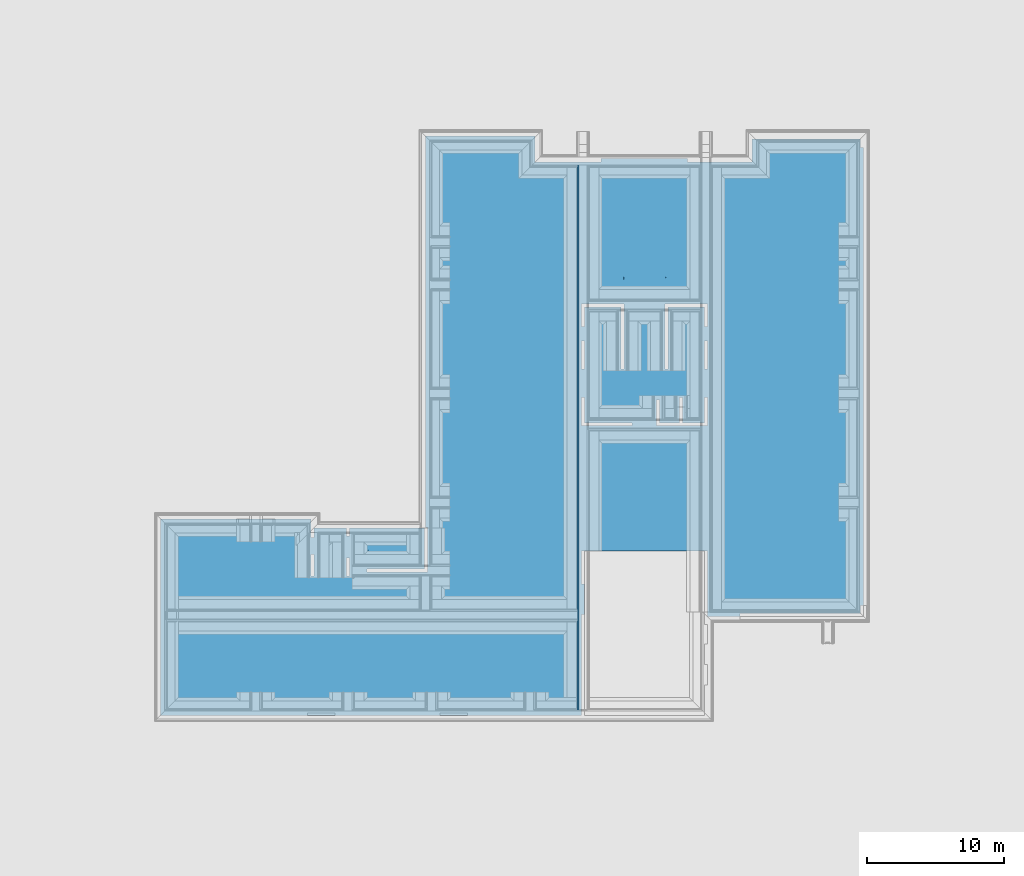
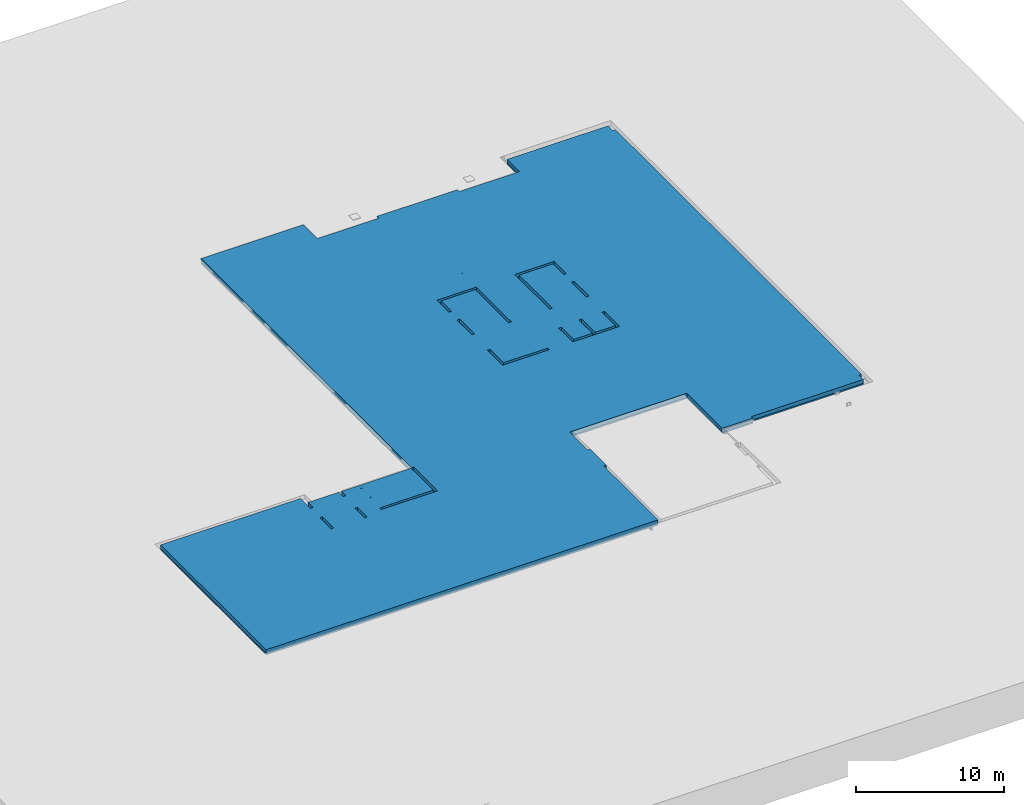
# One storey, part 7 of 15: 3 building element parts, 2 elements without a shape of their own.
"""IFC2X3 building model written with IfcOpenShell, lengths in millimetres."""

from ifc_helpers import new_model, entity, si_unit, converted_unit, derived_unit, money_unit, direction, frame, origin_with_axes, place, context, subcontext, project, spatial, faceted_brep, material, type_object, element, aggregate, save


model = new_model("IFC2X3")

# Units and contexts
model_context = context("Model", 3, precision=0.01, world=origin_with_axes(), true_north=direction((0.0, 1.0)))
plan_context = context("Plan", 3, precision=0.01, world=origin_with_axes(), true_north=direction((0.0, 1.0)))
body_context = subcontext(model_context, "Body", "Model", "MODEL_VIEW")
ifc_project = project(units=[si_unit("LENGTHUNIT", "METRE", prefix="MILLI"), si_unit("AREAUNIT", "SQUARE_METRE"), si_unit("VOLUMEUNIT", "CUBIC_METRE"), converted_unit("PLANEANGLEUNIT", "DEGREE", entity("IfcPlaneAngleMeasure", 0.0174532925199), si_unit("PLANEANGLEUNIT", "RADIAN"), dimensions=[0, 0, 0, 0, 0, 0, 0]), money_unit("EUR"), converted_unit("TIMEUNIT", "Year", entity("IfcTimeMeasure", 31556926.0), si_unit("TIMEUNIT", "SECOND"), dimensions=[0, 0, 1, 0, 0, 0, 0]), si_unit("MASSUNIT", "GRAM", prefix="KILO"), si_unit("THERMODYNAMICTEMPERATUREUNIT", "DEGREE_CELSIUS"), si_unit("LUMINOUSINTENSITYUNIT", "LUMEN"), si_unit("ENERGYUNIT", "JOULE", prefix="MEGA"), derived_unit("THERMALCONDUCTANCEUNIT", [(si_unit("POWERUNIT", "WATT"), 1), (si_unit("LENGTHUNIT", "METRE"), -1), (si_unit("THERMODYNAMICTEMPERATUREUNIT", "KELVIN"), -1)]), derived_unit("SPECIFICHEATCAPACITYUNIT", [(si_unit("ENERGYUNIT", "JOULE"), 1), (si_unit("MASSUNIT", "GRAM", prefix="KILO"), -1), (si_unit("THERMODYNAMICTEMPERATUREUNIT", "KELVIN"), -1)]), derived_unit("MASSDENSITYUNIT", [(si_unit("MASSUNIT", "GRAM", prefix="KILO"), 1), (si_unit("VOLUMEUNIT", "CUBIC_METRE"), -1)])], contexts=[model_context, plan_context])

# Site, building, storey
site_placement = place(None, origin_with_axes())
site = spatial("IfcSite", under=ifc_project, at=site_placement, Name="Site", CompositionType="ELEMENT")
building_placement = place(site_placement, origin_with_axes())
building = spatial("IfcBuilding", under=site, at=building_placement, Name="Naam gebouw", CompositionType="ELEMENT")
storey_placement = place(building_placement, frame((0.0, 0.0, -1050.0), z_axis=(0.0, 0.0, 1.0), x_axis=(1.0, 0.0, 0.0)))
storey = spatial("IfcBuildingStorey", under=building, at=storey_placement, Name="fundering", CompositionType="ELEMENT", Elevation=-1050.0)

# Furnishing, building element parts
furniture_type = type_object("IfcFurnitureType", Name="23 kanaaplaat VBI Rc 3,7 132mm excl. afwerklaag 440", AssemblyPlace="NOTDEFINED")
furnishing_placement = place(storey_placement, frame((4850.0, 4850.00002155, 540.0), z_axis=(0.0, 0.0, 1.0), x_axis=(1.0, 0.0, 0.0)))
furnishing = element("IfcFurnishingElement", 1, at=furnishing_placement, inside=storey, type_object=furniture_type, Name="72_23 VBI 260 Rc 3,7", ObjectType="SHELF")
ifc_material_1 = material(Name="Beton gewapend prefab vloer")
building_element_part_1_placement = place(furnishing_placement, origin_with_axes())
building_element_part_1 = element("IfcBuildingElementPart", 2, at=building_element_part_1_placement, material=ifc_material_1, Name="Beton gewapend prefab vloer", context=body_context, shape_type="Brep", body=[
    faceted_brep([(33678.0, 31905.1730258, 440.0), (33678.0, 31846.984211, 440.0), (33712.0, 31846.984211, 440.0), (33712.0, 31905.1730258, 440.0), (33678.0, 31919.9999781, 387.428646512), (33678.0, 31919.9999781, 429.324594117), (33712.0, 31919.9999781, 387.428646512), (33712.0, 31919.9999781, 429.324594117), (33715.0, 31919.9999781, 440.0), (33715.0, 31919.9999781, 433.021295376), (33675.0, 31919.9999781, 433.021295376), (33675.0, 31919.9999781, 440.0), (33665.0, 31919.9999781, 440.0), (33665.0, 31919.9999781, 371.409607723), (33675.0, 31919.9999781, 371.409607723), (33675.0, 31919.9999781, 383.731945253), (33715.0, 31919.9999781, 383.731945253), (33715.0, 31919.9999781, 309.797920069), (33725.0, 31919.9999781, 309.797920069), (33725.0, 31919.9999781, 440.0), (33715.0, 31910.307333, 440.0), (33675.0, 31910.307333, 440.0), (10945.0, 14299.9999784, 440.0), (0.0, 14299.9999784, 440.0), (0.0, 0.0, 440.0), (30645.0, -2.1554233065e-05, 440.0), (30645.0, 7349.99997845, 440.0), (30855.0, 7349.99997845, 440.0), (30855.0, 9549.99997845, 440.0), (30645.0, 9549.99997845, 440.0), (30645.0, 11974.9999784, 440.0), (39805.0012766, 11974.9999457, 440.0), (39805.0012766, 7200.00054255, 440.0), (42205.0, 7200.00001212, 440.0), (42205.0, 7410.00005355, 440.0), (50964.9999586, 7410.00005355, 440.0), (50964.9999586, 8009.99997845, 440.0), (51174.9999775, 8009.99997845, 440.0), (51174.9999775, 41337.499977, 440.0), (50965.0000265, 41337.499977, 440.0), (50965.0000265, 41976.9999725, 440.0), (43075.0000225, 41976.9999725, 440.0), (43075.0000225, 40302.9999784, 440.0), (38375.0, 40302.9999784, 440.0), (38375.0, 40557.4999784, 440.0), (32075.0, 40557.4999784, 440.0), (32075.0, 40302.9999784, 440.0), (27278.0032564, 40302.9999784, 440.0), (27278.0032564, 42186.9999559, 440.0), (19275.0, 42186.9999559, 440.0), (19275.0, 13672.9999784, 440.0), (19425.0, 13672.9999784, 440.0), (19425.0, 10439.9999784, 440.0), (15015.0, 10439.9999784, 440.0), (15015.0, 10649.9999784, 440.0), (19215.0, 10649.9999784, 440.0), (19215.0, 13644.9999784, 440.0), (13765.0, 13644.9999784, 440.0), (13765.0, 13049.9999784, 440.0), (13555.0, 13049.9999784, 440.0), (13555.0, 13644.9999784, 440.0), (11155.0, 13644.9999784, 440.0), (11155.0, 12939.9999784, 440.0), (10945.0, 12939.9999784, 440.0), (11155.0, 10149.9999784, 440.0), (10945.0, 10149.9999784, 440.0), (10945.0, 11689.9999784, 440.0), (11155.0, 11689.9999784, 440.0), (13555.0, 11449.9999784, 440.0), (13765.0, 11449.9999784, 440.0), (13765.0, 10149.9999784, 440.0), (13555.0, 10149.9999784, 440.0), (30645.0, 27239.9999061, 440.0), (30855.0, 27239.9999061, 440.0), (30855.0, 25224.9999061, 440.0), (30645.0, 25224.9999061, 440.0), (30855.0, 28303.9999061, 440.0), (30645.0, 28303.9999061, 440.0), (30645.0, 29949.9999784, 440.0), (33725.0, 29949.9999784, 440.0), (33725.0, 25224.9999061, 440.0), (33515.0, 25224.9999061, 440.0), (33515.0, 29739.9999784, 440.0), (30855.0, 29739.9999784, 440.0), (34325.0, 21089.9999784, 440.0), (30645.0, 21089.9999784, 440.0), (30645.0, 23124.9999784, 440.0), (30855.0, 23124.9999784, 440.0), (30855.0, 21299.9999784, 440.0), (34325.0, 21299.9999784, 440.0), (36125.0, 21089.9999784, 440.0), (36125.0, 22973.4999784, 440.0), (36335.0, 22973.4999784, 440.0), (36335.0, 21299.9999784, 440.0), (37797.0, 21299.9999784, 440.0), (37797.0, 23124.9999784, 440.0), (38007.0, 23124.9999784, 440.0), (38007.0, 21299.9999784, 440.0), (39595.0, 21299.9999784, 440.0), (39595.0, 23124.9999784, 440.0), (39805.0, 23124.9999784, 440.0), (39805.0, 21089.9999784, 440.0), (36935.0, 25224.9999061, 440.0), (36725.0, 25224.9999061, 440.0), (36725.0, 29950.0000142, 440.0), (39805.0, 29950.0000142, 440.0), (39805.0, 28303.9999061, 440.0), (39595.0, 28303.9999061, 440.0), (39595.0, 29739.9999784, 440.0), (36935.0, 29739.9999784, 440.0), (39805.0, 25224.9999061, 440.0), (39595.0, 25224.9999061, 440.0), (39595.0, 27239.9999061, 440.0), (39805.0, 27239.9999061, 440.0), (15225.8362185, 13249.9999784, 440.0), (15055.0, 13249.9999784, 440.0), (15055.0, 13309.9999784, 440.0), (15140.264432, 13309.9999784, 440.0), (15140.264432, 13299.9999784, 440.0), (15123.1500746, 13299.9999784, 440.0), (15123.1500746, 13259.9999784, 440.0), (15225.8362185, 13259.9999784, 440.0), (15140.264432, 11989.9999784, 440.0), (15055.0, 11989.9999784, 440.0), (15055.0, 12049.9999784, 440.0), (15225.8362185, 12049.9999784, 440.0), (15225.8362185, 12039.9999784, 440.0), (15123.1500746, 12039.9999784, 440.0), (15123.1500746, 11999.9999784, 440.0), (15140.264432, 11999.9999784, 440.0), (36735.0, 31919.9999781, 440.0), (36735.0, 31910.307333, 440.0), (36775.0, 31910.307333, 440.0), (36775.0, 31919.9999781, 440.0), (36785.0, 31919.9999781, 440.0), (36785.0, 31824.7355465, 440.0), (36775.0, 31824.7355465, 440.0), (36775.0, 31841.8499038, 440.0), (36735.0, 31841.8499038, 440.0), (36735.0, 31739.1637599, 440.0), (36725.0, 31739.1637599, 440.0), (36725.0, 31919.9999781, 440.0), (33725.0, 31739.1637599, 440.0), (33715.0, 31739.1637599, 440.0), (33715.0, 31841.8499038, 440.0), (33675.0, 31841.8499038, 440.0), (33675.0, 31824.7355465, 440.0), (33665.0, 31824.7355465, 440.0), (10945.0, 14299.9999784, 120.0), (0.0, 14299.9999784, 120.0), (0.0, 0.0, 120.0), (30645.0, -2.1554233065e-05, 120.0), (30645.0, 7349.99997845, 120.0), (30855.0, 7349.99997845, 120.0), (30855.0, 9549.99997845, 120.0), (30645.0, 9549.99997845, 120.0), (30645.0, 11974.9999784, 120.0), (39805.0012766, 11974.9999457, 120.0), (39805.0012766, 7200.00054255, 120.0), (42205.0, 7200.00001212, 120.0), (42205.0, 7410.00005355, 120.0), (50964.9999586, 7410.00005355, 120.0), (50964.9999586, 8009.99997845, 120.0), (51174.9999775, 8009.99997845, 120.0), (51174.9999775, 41337.499977, 120.0), (50965.0000265, 41337.499977, 120.0), (50965.0000265, 41976.9999725, 120.0), (43075.0000225, 41976.9999725, 120.0), (43075.0000225, 40302.9999784, 120.0), (38375.0, 40302.9999784, 120.0), (38375.0, 40557.4999784, 120.0), (32075.0, 40557.4999784, 120.0), (32075.0, 40302.9999784, 120.0), (27278.0032564, 40302.9999784, 120.0), (27278.0032564, 42186.9999559, 120.0), (19275.0, 42186.9999559, 120.0), (19275.0, 13672.9999784, 120.0), (19425.0, 13672.9999784, 120.0), (19425.0, 10439.9999784, 120.0), (15015.0, 10439.9999784, 120.0), (15015.0, 10649.9999784, 120.0), (19215.0, 10649.9999784, 120.0), (19215.0, 13644.9999784, 120.0), (13765.0, 13644.9999784, 120.0), (13765.0, 13049.9999784, 120.0), (13555.0, 13049.9999784, 120.0), (13555.0, 13644.9999784, 120.0), (11155.0, 13644.9999784, 120.0), (11155.0, 12939.9999784, 120.0), (10945.0, 12939.9999784, 120.0), (11155.0, 10149.9999784, 120.0), (10945.0, 10149.9999784, 120.0), (10945.0, 11689.9999784, 120.0), (11155.0, 11689.9999784, 120.0), (13555.0, 11449.9999784, 120.0), (13765.0, 11449.9999784, 120.0), (13765.0, 10149.9999784, 120.0), (13555.0, 10149.9999784, 120.0), (30645.0, 27239.9999061, 120.0), (30855.0, 27239.9999061, 120.0), (30855.0, 25224.9999061, 120.0), (30645.0, 25224.9999061, 120.0), (30855.0, 28303.9999061, 120.0), (30645.0, 28303.9999061, 120.0), (30645.0, 29949.9999784, 120.0), (33725.0, 29949.9999784, 120.0), (33725.0, 25224.9999061, 120.0), (33515.0, 25224.9999061, 120.0), (33515.0, 29739.9999784, 120.0), (30855.0, 29739.9999784, 120.0), (34325.0, 21089.9999784, 120.0), (30645.0, 21089.9999784, 120.0), (30645.0, 23124.9999784, 120.0), (30855.0, 23124.9999784, 120.0), (30855.0, 21299.9999784, 120.0), (34325.0, 21299.9999784, 120.0), (36125.0, 21089.9999784, 120.0), (36125.0, 22973.4999784, 120.0), (36335.0, 22973.4999784, 120.0), (36335.0, 21299.9999784, 120.0), (37797.0, 21299.9999784, 120.0), (37797.0, 23124.9999784, 120.0), (38007.0, 23124.9999784, 120.0), (38007.0, 21299.9999784, 120.0), (39595.0, 21299.9999784, 120.0), (39595.0, 23124.9999784, 120.0), (39805.0, 23124.9999784, 120.0), (39805.0, 21089.9999784, 120.0), (36935.0, 25224.9999061, 120.0), (36725.0, 25224.9999061, 120.0), (36725.0, 29950.0000142, 120.0), (39805.0, 29950.0000142, 120.0), (39805.0, 28303.9999061, 120.0), (39595.0, 28303.9999061, 120.0), (39595.0, 29739.9999784, 120.0), (36935.0, 29739.9999784, 120.0), (39805.0, 25224.9999061, 120.0), (39595.0, 25224.9999061, 120.0), (39595.0, 27239.9999061, 120.0), (39805.0, 27239.9999061, 120.0), (15055.0, 13249.9999784, 316.997920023), (15055.0, 13259.9999784, 316.997920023), (15055.0, 13259.9999784, 390.931945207), (15055.0, 13299.9999784, 390.931945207), (15055.0, 13299.9999784, 378.609607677), (15055.0, 13309.9999784, 378.609607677), (15055.0, 13296.9999784, 436.524594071), (15055.0, 13296.9999784, 394.628646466), (15055.0, 13262.9999784, 394.628646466), (15055.0, 13262.9999784, 436.524594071), (15055.0, 11989.9999784, 378.609607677), (15055.0, 11999.9999784, 378.609607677), (15055.0, 11999.9999784, 390.931945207), (15055.0, 12039.9999784, 390.931945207), (15055.0, 12039.9999784, 316.997920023), (15055.0, 12049.9999784, 316.997920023), (15055.0, 12036.9999784, 436.524594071), (15055.0, 12036.9999784, 394.628646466), (15055.0, 12002.9999784, 394.628646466), (15055.0, 12002.9999784, 436.524594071), (36735.0, 31919.9999781, 433.021295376), (36775.0, 31919.9999781, 433.021295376), (36725.0, 31919.9999781, 309.797920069), (36735.0, 31919.9999781, 309.797920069), (36735.0, 31919.9999781, 383.731945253), (36775.0, 31919.9999781, 383.731945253), (36775.0, 31919.9999781, 371.409607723), (36785.0, 31919.9999781, 371.409607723), (36772.0, 31919.9999781, 429.324594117), (36772.0, 31919.9999781, 387.428646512), (36738.0, 31919.9999781, 387.428646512), (36738.0, 31919.9999781, 429.324594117), (15059.8269526, 13296.9999784, 440.0), (15118.0157674, 13296.9999784, 440.0), (15118.0157674, 13262.9999784, 440.0), (15059.8269526, 13262.9999784, 440.0), (15059.8269526, 12036.9999784, 440.0), (15118.0157674, 12036.9999784, 440.0), (15118.0157674, 12002.9999784, 440.0), (15059.8269526, 12002.9999784, 440.0), (36772.0, 31905.1730258, 440.0), (36772.0, 31846.984211, 440.0), (36738.0, 31846.984211, 440.0), (36738.0, 31905.1730258, 440.0)], [[[0, 1, 2, 3]], [[4, 1, 0, 5]], [[6, 2, 1, 4]], [[7, 3, 2, 6]], [[5, 0, 3, 7]], [[8, 9, 10, 11, 12, 13, 14, 15, 16, 17, 18, 19], [7, 6, 4, 5]], [[8, 20, 9]], [[10, 9, 20, 21]], [[11, 10, 21]], [[22, 23, 24, 25, 26, 27, 28, 29, 30, 31, 32, 33, 34, 35, 36, 37, 38, 39, 40, 41, 42, 43, 44, 45, 46, 47, 48, 49, 50, 51, 52, 53, 54, 55, 56, 57, 58, 59, 60, 61, 62, 63], [64, 65, 66, 67], [68, 69, 70, 71], [72, 73, 74, 75], [76, 77, 78, 79, 80, 81, 82, 83], [84, 85, 86, 87, 88, 89], [90, 91, 92, 93, 94, 95, 96, 97, 98, 99, 100, 101], [102, 103, 104, 105, 106, 107, 108, 109], [110, 111, 112, 113], [114, 115, 116, 117, 118, 119, 120, 121], [122, 123, 124, 125, 126, 127, 128, 129], [130, 131, 132, 133, 134, 135, 136, 137, 138, 139, 140, 141], [11, 21, 20, 8, 19, 142, 143, 144, 145, 146, 147, 12]], [[13, 12, 147]], [[13, 147, 146, 14]], [[146, 145, 15, 14]], [[145, 144, 16, 15]], [[17, 16, 144, 143]], [[17, 143, 142, 18]], [[18, 142, 19]], [[22, 148, 149, 23]], [[23, 149, 150, 24]], [[24, 150, 151, 25]], [[25, 151, 152, 26]], [[26, 152, 153, 27]], [[27, 153, 154, 28]], [[28, 154, 155, 29]], [[29, 155, 156, 30]], [[30, 156, 157, 31]], [[31, 157, 158, 32]], [[32, 158, 159, 33]], [[33, 159, 160, 34]], [[34, 160, 161, 35]], [[35, 161, 162, 36]], [[36, 162, 163, 37]], [[37, 163, 164, 38]], [[38, 164, 165, 39]], [[39, 165, 166, 40]], [[40, 166, 167, 41]], [[41, 167, 168, 42]], [[42, 168, 169, 43]], [[43, 169, 170, 44]], [[44, 170, 171, 45]], [[45, 171, 172, 46]], [[46, 172, 173, 47]], [[47, 173, 174, 48]], [[48, 174, 175, 49]], [[49, 175, 176, 50]], [[50, 176, 177, 51]], [[51, 177, 178, 52]], [[52, 178, 179, 53]], [[53, 179, 180, 54]], [[54, 180, 181, 55]], [[55, 181, 182, 56]], [[56, 182, 183, 57]], [[57, 183, 184, 58]], [[58, 184, 185, 59]], [[59, 185, 186, 60]], [[60, 186, 187, 61]], [[61, 187, 188, 62]], [[62, 188, 189, 63]], [[63, 189, 148, 22]], [[64, 190, 191, 65]], [[65, 191, 192, 66]], [[66, 192, 193, 67]], [[67, 193, 190, 64]], [[68, 194, 195, 69]], [[69, 195, 196, 70]], [[70, 196, 197, 71]], [[71, 197, 194, 68]], [[72, 198, 199, 73]], [[73, 199, 200, 74]], [[74, 200, 201, 75]], [[75, 201, 198, 72]], [[76, 202, 203, 77]], [[77, 203, 204, 78]], [[78, 204, 205, 79]], [[79, 205, 206, 80]], [[80, 206, 207, 81]], [[81, 207, 208, 82]], [[82, 208, 209, 83]], [[83, 209, 202, 76]], [[84, 210, 211, 85]], [[85, 211, 212, 86]], [[86, 212, 213, 87]], [[87, 213, 214, 88]], [[88, 214, 215, 89]], [[89, 215, 210, 84]], [[90, 216, 217, 91]], [[91, 217, 218, 92]], [[92, 218, 219, 93]], [[93, 219, 220, 94]], [[94, 220, 221, 95]], [[95, 221, 222, 96]], [[96, 222, 223, 97]], [[97, 223, 224, 98]], [[98, 224, 225, 99]], [[99, 225, 226, 100]], [[100, 226, 227, 101]], [[101, 227, 216, 90]], [[102, 228, 229, 103]], [[103, 229, 230, 104]], [[104, 230, 231, 105]], [[105, 231, 232, 106]], [[106, 232, 233, 107]], [[107, 233, 234, 108]], [[108, 234, 235, 109]], [[109, 235, 228, 102]], [[110, 236, 237, 111]], [[111, 237, 238, 112]], [[112, 238, 239, 113]], [[113, 239, 236, 110]], [[240, 115, 114]], [[116, 115, 240, 241, 242, 243, 244, 245], [246, 247, 248, 249]], [[245, 117, 116]], [[244, 118, 117, 245]], [[244, 243, 119, 118]], [[242, 120, 119, 243]], [[121, 120, 242, 241]], [[240, 114, 121, 241]], [[250, 123, 122]], [[124, 123, 250, 251, 252, 253, 254, 255], [256, 257, 258, 259]], [[255, 125, 124]], [[254, 126, 125, 255]], [[254, 253, 127, 126]], [[252, 128, 127, 253]], [[129, 128, 252, 251]], [[250, 122, 129, 251]], [[130, 260, 131]], [[260, 261, 132, 131]], [[133, 132, 261]], [[133, 261, 260, 130, 141, 262, 263, 264, 265, 266, 267, 134], [268, 269, 270, 271]], [[267, 135, 134]], [[266, 136, 135, 267]], [[266, 265, 137, 136]], [[138, 137, 265, 264]], [[139, 138, 264, 263]], [[262, 140, 139, 263]], [[262, 141, 140]], [[152, 151, 150, 149, 148, 189, 188, 187, 186, 185, 184, 183, 182, 181, 180, 179, 178, 177, 176, 175, 174, 173, 172, 171, 170, 169, 168, 167, 166, 165, 164, 163, 162, 161, 160, 159, 158, 157, 156, 155, 154, 153], [190, 193, 192, 191], [194, 197, 196, 195], [198, 201, 200, 199], [205, 204, 203, 202, 209, 208, 207, 206], [213, 212, 211, 210, 215, 214], [219, 218, 217, 216, 227, 226, 225, 224, 223, 222, 221, 220], [231, 230, 229, 228, 235, 234, 233, 232], [236, 239, 238, 237]], [[246, 272, 273, 247]], [[247, 273, 274, 248]], [[248, 274, 275, 249]], [[249, 275, 272, 246]], [[256, 276, 277, 257]], [[257, 277, 278, 258]], [[258, 278, 279, 259]], [[259, 279, 276, 256]], [[268, 280, 281, 269]], [[269, 281, 282, 270]], [[270, 282, 283, 271]], [[271, 283, 280, 268]], [[272, 275, 274, 273]], [[276, 279, 278, 277]], [[283, 282, 281, 280]]]),
])
ifc_material_2 = material(Name="Isolatie - EPS vloer")
building_element_part_2_placement = place(furnishing_placement, origin_with_axes())
building_element_part_2 = element("IfcBuildingElementPart", 3, at=building_element_part_2_placement, material=ifc_material_2, Name="Isolatie - EPS vloer", context=body_context, shape_type="Brep", body=[
    faceted_brep([(0.0, 0.0, 0.0), (30645.0, -2.1554233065e-05, 0.0), (30645.0, -2.1554233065e-05, 120.0), (0.0, 0.0, 120.0), (0.0, 14299.9999784, 0.0), (10945.0, 14299.9999784, 0.0), (10945.0, 12939.9999784, 0.0), (11155.0, 12939.9999784, 0.0), (11155.0, 13644.9999784, 0.0), (13555.0, 13644.9999784, 0.0), (13555.0, 13049.9999784, 0.0), (13765.0, 13049.9999784, 0.0), (13765.0, 13644.9999784, 0.0), (19215.0, 13644.9999784, 0.0), (19215.0, 10649.9999784, 0.0), (15015.0, 10649.9999784, 0.0), (15015.0, 10439.9999784, 0.0), (19215.0, 10439.9999784, 0.0), (19425.0, 10439.9999784, 0.0), (19425.0, 13672.9999784, 0.0), (19275.0, 13672.9999784, 0.0), (19275.0, 42186.9999559, 0.0), (27278.0032564, 42186.9999559, 0.0), (27278.0032564, 40302.9999784, 0.0), (32075.0, 40302.9999784, 0.0), (32075.0, 40557.4999784, 0.0), (38375.0, 40557.4999784, 0.0), (38375.0, 40302.9999784, 0.0), (43075.0000225, 40302.9999784, 0.0), (43075.0000225, 41976.9999725, 0.0), (50965.0000265, 41976.9999725, 0.0), (50965.0000265, 41337.499977, 0.0), (51174.9999775, 41337.499977, 0.0), (51174.9999775, 8009.99997845, 0.0), (50964.9999586, 8009.99997845, 0.0), (50964.9999586, 7410.00005355, 0.0), (42205.0, 7410.00005355, 0.0), (42205.0, 7200.00001212, 0.0), (39805.0012766, 7200.00054255, 0.0), (39805.0012766, 11974.9999457, 0.0), (30645.0, 11974.9999784, 0.0), (30645.0, 9549.99997845, 0.0), (30855.0, 9549.99997845, 0.0), (30855.0, 7349.99997845, 0.0), (30645.0, 7349.99997845, 0.0), (10945.0, 11689.9999784, 0.0), (10945.0, 10149.9999784, 0.0), (11155.0, 10149.9999784, 0.0), (11155.0, 11689.9999784, 0.0), (13765.0, 10149.9999784, 0.0), (13765.0, 11449.9999784, 0.0), (13555.0, 11449.9999784, 0.0), (13555.0, 10149.9999784, 0.0), (30855.0, 25224.9999061, 0.0), (30855.0, 27239.9999061, 0.0), (30645.0, 27239.9999061, 0.0), (30645.0, 25224.9999061, 0.0), (30645.0, 29739.9999784, 0.0), (30645.0, 28303.9999061, 0.0), (30855.0, 28303.9999061, 0.0), (30855.0, 29739.9999784, 0.0), (33515.0, 29739.9999784, 0.0), (33515.0, 25224.9999061, 0.0), (33725.0, 25224.9999061, 0.0), (33725.0, 29949.9999784, 0.0), (33515.0, 29949.9999784, 0.0), (30855.0, 29949.9999784, 0.0), (30645.0, 29949.9999784, 0.0), (30645.0, 21089.9999784, 0.0), (30855.0, 21089.9999784, 0.0), (34325.0, 21089.9999784, 0.0), (34325.0, 21299.9999784, 0.0), (30855.0, 21299.9999784, 0.0), (30855.0, 23124.9999784, 0.0), (30645.0, 23124.9999784, 0.0), (36125.0, 22973.4999784, 0.0), (36125.0, 21299.9999784, 0.0), (36125.0, 21089.9999784, 0.0), (39595.0, 21089.9999784, 0.0), (39805.0, 21089.9999784, 0.0), (39805.0, 23124.9999784, 0.0), (39595.0, 23124.9999784, 0.0), (39595.0, 21299.9999784, 0.0), (38007.0, 21299.9999784, 0.0), (38007.0, 23124.9999784, 0.0), (37797.0, 23124.9999784, 0.0), (37797.0, 21299.9999784, 0.0), (36335.0, 21299.9999784, 0.0), (36335.0, 22973.4999784, 0.0), (36725.0, 29739.9999784, 0.0), (36725.0, 25224.9999061, 0.0), (36935.0, 25224.9999061, 0.0), (36935.0, 29739.9999784, 0.0), (39595.0, 29739.9999784, 0.0), (39595.0, 28303.9999061, 0.0), (39805.0, 28303.9999061, 0.0), (39805.0, 29739.9999784, 0.0), (39805.0, 29950.0000142, 0.0), (36725.0, 29950.0000142, 0.0), (39595.0, 27239.9999061, 0.0), (39595.0, 25224.9999061, 0.0), (39805.0, 25224.9999061, 0.0), (39805.0, 27239.9999061, 0.0), (30645.0, 7349.99997845, 120.0), (30855.0, 7349.99997845, 120.0), (30855.0, 9549.99997845, 120.0), (30645.0, 9549.99997845, 120.0), (30645.0, 11974.9999784, 120.0), (39805.0012766, 11974.9999457, 120.0), (39805.0012766, 7200.00054255, 120.0), (42205.0, 7200.00001212, 120.0), (42205.0, 7410.00005355, 120.0), (50964.9999586, 7410.00005355, 120.0), (50964.9999586, 8009.99997845, 120.0), (51174.9999775, 8009.99997845, 120.0), (51174.9999775, 41337.499977, 120.0), (50965.0000265, 41337.499977, 120.0), (50965.0000265, 41976.9999725, 120.0), (43075.0000225, 41976.9999725, 120.0), (43075.0000225, 40302.9999784, 120.0), (38375.0, 40302.9999784, 120.0), (38375.0, 40557.4999784, 120.0), (32075.0, 40557.4999784, 120.0), (32075.0, 40302.9999784, 120.0), (27278.0032564, 40302.9999784, 120.0), (27278.0032564, 42186.9999559, 120.0), (19275.0, 42186.9999559, 120.0), (19275.0, 13672.9999784, 120.0), (19425.0, 13672.9999784, 120.0), (19425.0, 10439.9999784, 120.0), (19215.0, 10439.9999784, 120.0), (15015.0, 10439.9999784, 120.0), (15015.0, 10649.9999784, 120.0), (19215.0, 10649.9999784, 120.0), (19215.0, 13644.9999784, 120.0), (13765.0, 13644.9999784, 120.0), (13765.0, 13049.9999784, 120.0), (13555.0, 13049.9999784, 120.0), (13555.0, 13644.9999784, 120.0), (11155.0, 13644.9999784, 120.0), (11155.0, 12939.9999784, 120.0), (10945.0, 12939.9999784, 120.0), (10945.0, 14299.9999784, 120.0), (0.0, 14299.9999784, 120.0), (10945.0, 11689.9999784, 120.0), (11155.0, 11689.9999784, 120.0), (11155.0, 10149.9999784, 120.0), (10945.0, 10149.9999784, 120.0), (13765.0, 10149.9999784, 120.0), (13555.0, 10149.9999784, 120.0), (13555.0, 11449.9999784, 120.0), (13765.0, 11449.9999784, 120.0), (30855.0, 25224.9999061, 120.0), (30645.0, 25224.9999061, 120.0), (30645.0, 27239.9999061, 120.0), (30855.0, 27239.9999061, 120.0), (30645.0, 29739.9999784, 120.0), (30645.0, 29949.9999784, 120.0), (30855.0, 29949.9999784, 120.0), (33515.0, 29949.9999784, 120.0), (33725.0, 29949.9999784, 120.0), (33725.0, 25224.9999061, 120.0), (33515.0, 25224.9999061, 120.0), (33515.0, 29739.9999784, 120.0), (30855.0, 29739.9999784, 120.0), (30855.0, 28303.9999061, 120.0), (30645.0, 28303.9999061, 120.0), (30645.0, 21089.9999784, 120.0), (30645.0, 23124.9999784, 120.0), (30855.0, 23124.9999784, 120.0), (30855.0, 21299.9999784, 120.0), (34325.0, 21299.9999784, 120.0), (34325.0, 21089.9999784, 120.0), (30855.0, 21089.9999784, 120.0), (36125.0, 22973.4999784, 120.0), (36335.0, 22973.4999784, 120.0), (36335.0, 21299.9999784, 120.0), (37797.0, 21299.9999784, 120.0), (37797.0, 23124.9999784, 120.0), (38007.0, 23124.9999784, 120.0), (38007.0, 21299.9999784, 120.0), (39595.0, 21299.9999784, 120.0), (39595.0, 23124.9999784, 120.0), (39805.0, 23124.9999784, 120.0), (39805.0, 21089.9999784, 120.0), (39595.0, 21089.9999784, 120.0), (36125.0, 21089.9999784, 120.0), (36125.0, 21299.9999784, 120.0), (36725.0, 29739.9999784, 120.0), (36725.0, 29950.0000142, 120.0), (39805.0, 29950.0000142, 120.0), (39805.0, 29739.9999784, 120.0), (39805.0, 28303.9999061, 120.0), (39595.0, 28303.9999061, 120.0), (39595.0, 29739.9999784, 120.0), (36935.0, 29739.9999784, 120.0), (36935.0, 25224.9999061, 120.0), (36725.0, 25224.9999061, 120.0), (39595.0, 27239.9999061, 120.0), (39805.0, 27239.9999061, 120.0), (39805.0, 25224.9999061, 120.0), (39595.0, 25224.9999061, 120.0)], [[[0, 1, 2, 3]], [[0, 4, 5, 6, 7, 8, 9, 10, 11, 12, 13, 14, 15, 16, 17, 18, 19, 20, 21, 22, 23, 24, 25, 26, 27, 28, 29, 30, 31, 32, 33, 34, 35, 36, 37, 38, 39, 40, 41, 42, 43, 44, 1], [45, 46, 47, 48], [49, 50, 51, 52], [53, 54, 55, 56], [57, 58, 59, 60, 61, 62, 63, 64, 65, 66, 67], [68, 69, 70, 71, 72, 73, 74], [75, 76, 77, 78, 79, 80, 81, 82, 83, 84, 85, 86, 87, 88], [89, 90, 91, 92, 93, 94, 95, 96, 97, 98], [99, 100, 101, 102]], [[1, 44, 103, 2]], [[3, 2, 103, 104, 105, 106, 107, 108, 109, 110, 111, 112, 113, 114, 115, 116, 117, 118, 119, 120, 121, 122, 123, 124, 125, 126, 127, 128, 129, 130, 131, 132, 133, 134, 135, 136, 137, 138, 139, 140, 141, 142, 143], [144, 145, 146, 147], [148, 149, 150, 151], [152, 153, 154, 155], [156, 157, 158, 159, 160, 161, 162, 163, 164, 165, 166], [167, 168, 169, 170, 171, 172, 173], [174, 175, 176, 177, 178, 179, 180, 181, 182, 183, 184, 185, 186, 187], [188, 189, 190, 191, 192, 193, 194, 195, 196, 197], [198, 199, 200, 201]], [[4, 0, 3, 143]], [[5, 4, 143, 142]], [[6, 5, 142, 141]], [[7, 6, 141, 140]], [[8, 7, 140, 139]], [[9, 8, 139, 138]], [[10, 9, 138, 137]], [[11, 10, 137, 136]], [[12, 11, 136, 135]], [[13, 12, 135, 134]], [[14, 13, 134, 133]], [[15, 14, 133, 132]], [[16, 15, 132, 131]], [[17, 16, 131, 130]], [[18, 17, 130, 129]], [[19, 18, 129, 128]], [[20, 19, 128, 127]], [[21, 20, 127, 126]], [[22, 21, 126, 125]], [[23, 22, 125, 124]], [[24, 23, 124, 123]], [[25, 24, 123, 122]], [[26, 25, 122, 121]], [[27, 26, 121, 120]], [[28, 27, 120, 119]], [[29, 28, 119, 118]], [[30, 29, 118, 117]], [[31, 30, 117, 116]], [[32, 31, 116, 115]], [[33, 32, 115, 114]], [[34, 33, 114, 113]], [[35, 34, 113, 112]], [[36, 35, 112, 111]], [[37, 36, 111, 110]], [[38, 37, 110, 109]], [[39, 38, 109, 108]], [[40, 39, 108, 107]], [[41, 40, 107, 106]], [[42, 41, 106, 105]], [[43, 42, 105, 104]], [[44, 43, 104, 103]], [[46, 45, 144, 147]], [[47, 46, 147, 146]], [[48, 47, 146, 145]], [[45, 48, 145, 144]], [[50, 49, 148, 151]], [[51, 50, 151, 150]], [[52, 51, 150, 149]], [[49, 52, 149, 148]], [[54, 53, 152, 155]], [[55, 54, 155, 154]], [[56, 55, 154, 153]], [[53, 56, 153, 152]], [[58, 57, 156, 166]], [[59, 58, 166, 165]], [[60, 59, 165, 164]], [[61, 60, 164, 163]], [[62, 61, 163, 162]], [[63, 62, 162, 161]], [[64, 63, 161, 160]], [[65, 64, 160, 159]], [[66, 65, 159, 158]], [[67, 66, 158, 157]], [[57, 67, 157, 156]], [[69, 68, 167, 173]], [[70, 69, 173, 172]], [[71, 70, 172, 171]], [[72, 71, 171, 170]], [[73, 72, 170, 169]], [[74, 73, 169, 168]], [[68, 74, 168, 167]], [[76, 75, 174, 187]], [[77, 76, 187, 186]], [[78, 77, 186, 185]], [[79, 78, 185, 184]], [[80, 79, 184, 183]], [[81, 80, 183, 182]], [[82, 81, 182, 181]], [[83, 82, 181, 180]], [[84, 83, 180, 179]], [[85, 84, 179, 178]], [[86, 85, 178, 177]], [[87, 86, 177, 176]], [[88, 87, 176, 175]], [[75, 88, 175, 174]], [[90, 89, 188, 197]], [[91, 90, 197, 196]], [[92, 91, 196, 195]], [[93, 92, 195, 194]], [[94, 93, 194, 193]], [[95, 94, 193, 192]], [[96, 95, 192, 191]], [[97, 96, 191, 190]], [[98, 97, 190, 189]], [[89, 98, 189, 188]], [[100, 99, 198, 201]], [[101, 100, 201, 200]], [[102, 101, 200, 199]], [[99, 102, 199, 198]]]),
])
aggregate(furnishing, [building_element_part_1, building_element_part_2])

# Beam, building element part
beam_type = type_object("IfcBeamType", Name="Fundering balk IsoBouw Powerkist 2800 x 850", PredefinedType="BEAM")
beam_placement = place(storey_placement, frame((35605.0, 44903.0000407, -60.0000017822), z_axis=(0.0, 0.0, 1.0), x_axis=(-1.0, 0.0, 0.0)))
beam = element("IfcBeam", 4, at=beam_placement, inside=storey, type_object=beam_type, Name="28_Balk-x", ObjectType="BEAM")
ifc_material_3 = material(Name="Isolatie - EPS")
building_element_part_3_placement = place(beam_placement, origin_with_axes())
building_element_part_3 = element("IfcBuildingElementPart", 5, at=building_element_part_3_placement, material=ifc_material_3, Name="Isolatie - EPS", context=body_context, shape_type="Brep", body=[
    faceted_brep([(300.000372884, 33078.0007864, 600.0), (300.000370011, 39633.0000338, 600.000000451), (300.000372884, 39633.0000338, 7.15338899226e-07), (300.000372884, 39558.0000214, 7.15338899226e-07), (300.00036966, 39558.0000214, -49.0824424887), (300.00036966, 0.0, -49.0824424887), (300.00036966, 0.0, 600.000004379), (300.000372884, 32477.9992949, 600.0), (300.000372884, 32477.9992949, 0.0), (300.000372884, 33078.0007864, 0.0), (400.000366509, 33078.0007864, 600.000000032), (400.000366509, 39633.0000338, 600.000000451), (400.000366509, 39633.0000338, 7.15338899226e-07), (400.000366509, 33078.0007864, -1.66024971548e-08), (380.000369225, 33078.0007864, -1.32820421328e-08), (380.000369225, 39558.0000215, 7.15338899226e-07), (380.000369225, 39558.0000215, -49.0824424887), (380.000369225, 0.0, -49.0824424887), (380.000369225, 0.0, 2.4249691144e-06), (400.000366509, 0.0, 2.4249691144e-06), (400.000366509, 0.0, 600.000004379), (400.000366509, 32477.9992949, 600.000000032), (400.000366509, 32477.9992949, -1.66024971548e-08), (380.000369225, 32477.9992949, -1.32820421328e-08)], [[[0, 1, 2, 3, 4, 5, 6, 7, 8, 9]], [[10, 11, 1, 0]], [[12, 2, 1, 11]], [[3, 2, 12, 13, 14, 15]], [[16, 4, 3, 15]], [[5, 4, 16, 17]], [[6, 5, 17, 18, 19, 20]], [[7, 6, 20, 21]], [[21, 22, 23, 8, 7]], [[8, 23, 14, 9]], [[9, 14, 13, 10, 0]], [[13, 12, 11, 10]], [[17, 16, 15, 14, 23, 18]], [[22, 19, 18, 23]], [[21, 20, 19, 22]]]),
])
aggregate(beam, [building_element_part_3])

save(model, "model.ifc")
